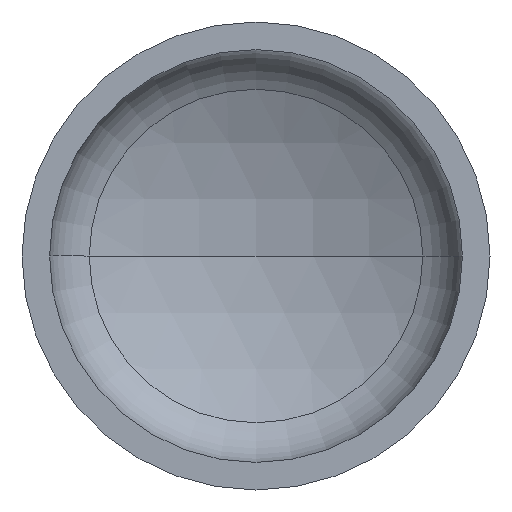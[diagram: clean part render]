
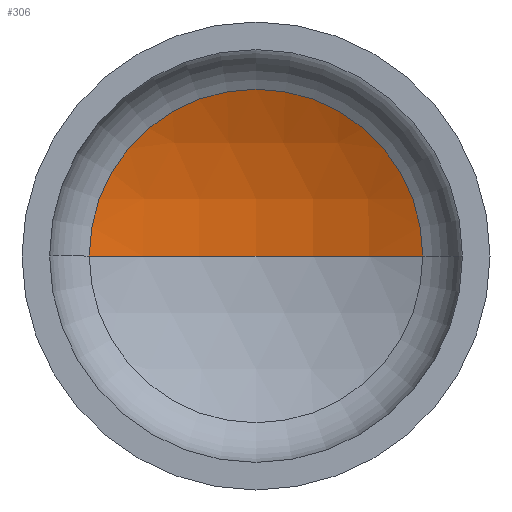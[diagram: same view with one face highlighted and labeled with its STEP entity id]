
A CAD part, front view. The second image highlights one B-rep face of the part: STEP entity #306.
In plain terms, the highlighted spherical face has radius 1440 mm.
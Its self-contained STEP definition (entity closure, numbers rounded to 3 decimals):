
#1 = AXIS2_PLACEMENT_3D ( 'NONE', #184, #304, #155 ) ;
#2 = DIRECTION ( 'NONE',  ( 1., 0., 0. ) ) ;
#11 = VERTEX_POINT ( 'NONE', #367 ) ;
#13 = AXIS2_PLACEMENT_3D ( 'NONE', #94, #89, #142 ) ;
#15 = EDGE_LOOP ( 'NONE', ( #39, #149, #27 ) ) ;
#27 = ORIENTED_EDGE ( 'NONE', *, *, #105, .T. ) ;
#34 = AXIS2_PLACEMENT_3D ( 'NONE', #175, #198, #200 ) ;
#38 = AXIS2_PLACEMENT_3D ( 'NONE', #259, #399, #2 ) ;
#39 = ORIENTED_EDGE ( 'NONE', *, *, #347, .F. ) ;
#89 = DIRECTION ( 'NONE',  ( 0., 0., -1. ) ) ;
#92 = VERTEX_POINT ( 'NONE', #354 ) ;
#94 = CARTESIAN_POINT ( 'NONE',  ( 0., -968.007, 0. ) ) ;
#105 = EDGE_CURVE ( 'NONE', #137, #11, #253, .T. ) ;
#131 = EDGE_CURVE ( 'NONE', #92, #137, #303, .T. ) ;
#137 = VERTEX_POINT ( 'NONE', #287 ) ;
#142 = DIRECTION ( 'NONE',  ( -1., 0., 0. ) ) ;
#149 = ORIENTED_EDGE ( 'NONE', *, *, #131, .T. ) ;
#155 = DIRECTION ( 'NONE',  ( 1., 0., 0. ) ) ;
#175 = CARTESIAN_POINT ( 'NONE',  ( 0., -968.007, 0. ) ) ;
#184 = CARTESIAN_POINT ( 'NONE',  ( 0., -968.007, 0. ) ) ;
#198 = DIRECTION ( 'NONE',  ( 0., 0., -1. ) ) ;
#200 = DIRECTION ( 'NONE',  ( -1., 0., 0. ) ) ;
#216 = CIRCLE ( 'NONE', #1, 1440. ) ;
#227 = SPHERICAL_SURFACE ( 'NONE', #13, 1440. ) ;
#253 = CIRCLE ( 'NONE', #38, 641.511 ) ;
#259 = CARTESIAN_POINT ( 'NONE',  ( 0., 321.203, 0. ) ) ;
#287 = CARTESIAN_POINT ( 'NONE',  ( 641.511, 321.203, 0. ) ) ;
#303 = CIRCLE ( 'NONE', #34, 1440. ) ;
#304 = DIRECTION ( 'NONE',  ( 0., 0., 1. ) ) ;
#306 = ADVANCED_FACE ( 'NONE', ( #407 ), #227, .F. ) ;
#347 = EDGE_CURVE ( 'NONE', #92, #11, #216, .T. ) ;
#354 = CARTESIAN_POINT ( 'NONE',  ( 0., 471.993, 0. ) ) ;
#367 = CARTESIAN_POINT ( 'NONE',  ( -641.511, 321.203, 0. ) ) ;
#399 = DIRECTION ( 'NONE',  ( 0., -1., 0. ) ) ;
#407 = FACE_OUTER_BOUND ( 'NONE', #15, .T. ) ;
